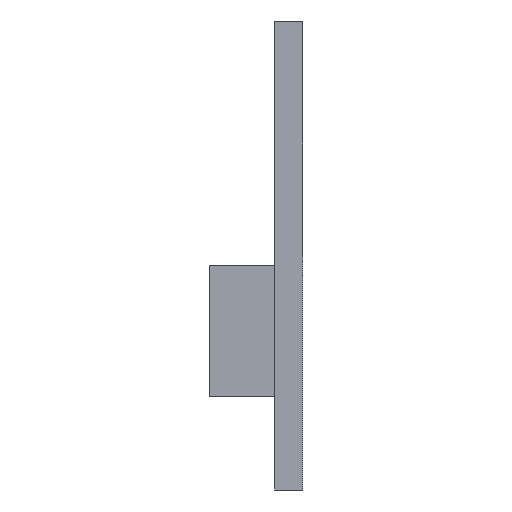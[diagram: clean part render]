
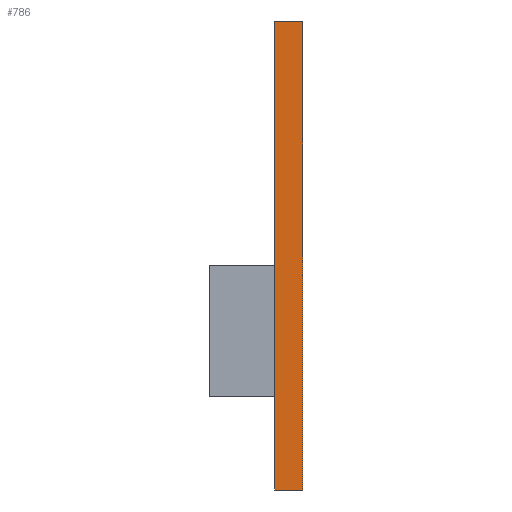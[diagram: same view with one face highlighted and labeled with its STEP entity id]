
A CAD part, left-side view. The second image highlights one B-rep face of the part: STEP entity #786.
In plain terms, the highlighted planar face has unit normal (-1, 0, 0).
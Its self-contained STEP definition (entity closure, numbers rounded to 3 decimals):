
#4 = VERTEX_POINT ( 'NONE', #849 ) ;
#34 = CARTESIAN_POINT ( 'NONE',  ( -60., 0., -25. ) ) ;
#65 = LINE ( 'NONE', #34, #298 ) ;
#69 = ORIENTED_EDGE ( 'NONE', *, *, #573, .F. ) ;
#121 = ORIENTED_EDGE ( 'NONE', *, *, #565, .T. ) ;
#144 = DIRECTION ( 'NONE',  ( 0., -1., 0. ) ) ;
#188 = DIRECTION ( 'NONE',  ( 0., 0., 1. ) ) ;
#195 = LINE ( 'NONE', #396, #381 ) ;
#205 = PLANE ( 'NONE',  #291 ) ;
#212 = EDGE_LOOP ( 'NONE', ( #493, #850, #69, #121 ) ) ;
#253 = DIRECTION ( 'NONE',  ( 0., -1., 0. ) ) ;
#271 = DIRECTION ( 'NONE',  ( 0., 0., -1. ) ) ;
#288 = LINE ( 'NONE', #828, #625 ) ;
#291 = AXIS2_PLACEMENT_3D ( 'NONE', #807, #752, #271 ) ;
#298 = VECTOR ( 'NONE', #441, 1000. ) ;
#353 = VERTEX_POINT ( 'NONE', #632 ) ;
#381 = VECTOR ( 'NONE', #253, 1000. ) ;
#389 = CARTESIAN_POINT ( 'NONE',  ( -60., 3., -25. ) ) ;
#396 = CARTESIAN_POINT ( 'NONE',  ( -60., 3., -25. ) ) ;
#414 = EDGE_CURVE ( 'NONE', #600, #487, #288, .T. ) ;
#441 = DIRECTION ( 'NONE',  ( 0., 0., 1. ) ) ;
#487 = VERTEX_POINT ( 'NONE', #612 ) ;
#493 = ORIENTED_EDGE ( 'NONE', *, *, #615, .T. ) ;
#565 = EDGE_CURVE ( 'NONE', #353, #4, #195, .T. ) ;
#573 = EDGE_CURVE ( 'NONE', #353, #600, #871, .T. ) ;
#598 = VECTOR ( 'NONE', #188, 1000. ) ;
#600 = VERTEX_POINT ( 'NONE', #731 ) ;
#612 = CARTESIAN_POINT ( 'NONE',  ( -60., 0., 25. ) ) ;
#615 = EDGE_CURVE ( 'NONE', #4, #487, #65, .T. ) ;
#625 = VECTOR ( 'NONE', #144, 1000. ) ;
#632 = CARTESIAN_POINT ( 'NONE',  ( -60., 3., -25. ) ) ;
#703 = FACE_OUTER_BOUND ( 'NONE', #212, .T. ) ;
#731 = CARTESIAN_POINT ( 'NONE',  ( -60., 3., 25. ) ) ;
#752 = DIRECTION ( 'NONE',  ( 1., 0., 0. ) ) ;
#786 = ADVANCED_FACE ( 'NONE', ( #703 ), #205, .F. ) ;
#807 = CARTESIAN_POINT ( 'NONE',  ( -60., 3., -25. ) ) ;
#828 = CARTESIAN_POINT ( 'NONE',  ( -60., 3., 25. ) ) ;
#849 = CARTESIAN_POINT ( 'NONE',  ( -60., 0., -25. ) ) ;
#850 = ORIENTED_EDGE ( 'NONE', *, *, #414, .F. ) ;
#871 = LINE ( 'NONE', #389, #598 ) ;
